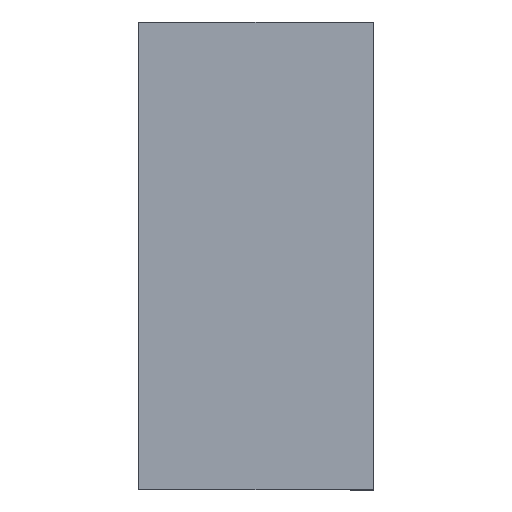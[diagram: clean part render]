
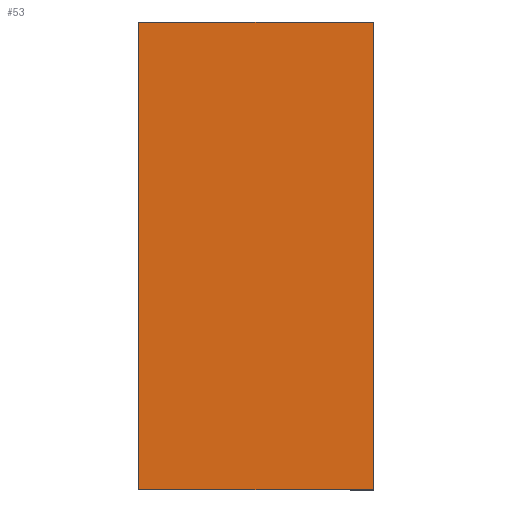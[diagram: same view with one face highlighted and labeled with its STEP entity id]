
A CAD part, top view. The second image highlights one B-rep face of the part: STEP entity #53.
In plain terms, the highlighted planar face has unit normal (0, 0, 1).
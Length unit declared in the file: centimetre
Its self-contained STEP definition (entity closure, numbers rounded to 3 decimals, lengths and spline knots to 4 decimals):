
#53=ADVANCED_FACE('',(#99),#639,.T.);
#99=FACE_OUTER_BOUND('',#145,.T.);
#145=EDGE_LOOP('',(#251,#252,#253,#254));
#251=ORIENTED_EDGE('',*,*,#406,.T.);
#252=ORIENTED_EDGE('',*,*,#407,.T.);
#253=ORIENTED_EDGE('',*,*,#408,.T.);
#254=ORIENTED_EDGE('',*,*,#409,.T.);
#406=EDGE_CURVE('',#585,#586,#502,.T.);
#407=EDGE_CURVE('',#586,#587,#503,.T.);
#408=EDGE_CURVE('',#587,#588,#504,.T.);
#409=EDGE_CURVE('',#588,#585,#505,.T.);
#502=B_SPLINE_CURVE_WITH_KNOTS('',1,(#937,#938),.UNSPECIFIED.,.F.,.F.,(2,
2),(0.,100.5),.UNSPECIFIED.);
#503=B_SPLINE_CURVE_WITH_KNOTS('',1,(#939,#940),.UNSPECIFIED.,.F.,.F.,(2,
2),(0.,50.4),.UNSPECIFIED.);
#504=B_SPLINE_CURVE_WITH_KNOTS('',1,(#941,#942),.UNSPECIFIED.,.F.,.F.,(2,
2),(0.,100.5),.UNSPECIFIED.);
#505=B_SPLINE_CURVE_WITH_KNOTS('',1,(#943,#944),.UNSPECIFIED.,.F.,.F.,(2,
2),(0.,50.4),.UNSPECIFIED.);
#585=VERTEX_POINT('',#913);
#586=VERTEX_POINT('',#914);
#587=VERTEX_POINT('',#915);
#588=VERTEX_POINT('',#916);
#639=PLANE('',#705);
#705=AXIS2_PLACEMENT_3D('',#899,#754,$);
#754=DIRECTION('',(0.,0.,1.));
#899=CARTESIAN_POINT('',(55.452,-10.062,8.));
#913=CARTESIAN_POINT('',(50.4,0.,8.));
#914=CARTESIAN_POINT('',(50.4,100.5,8.));
#915=CARTESIAN_POINT('',(0.,100.5,8.));
#916=CARTESIAN_POINT('',(0.,0.,8.));
#937=CARTESIAN_POINT('',(50.4,0.,8.));
#938=CARTESIAN_POINT('',(50.4,100.5,8.));
#939=CARTESIAN_POINT('',(50.4,100.5,8.));
#940=CARTESIAN_POINT('',(0.,100.5,8.));
#941=CARTESIAN_POINT('',(0.,100.5,8.));
#942=CARTESIAN_POINT('',(0.,0.,8.));
#943=CARTESIAN_POINT('',(0.,0.,8.));
#944=CARTESIAN_POINT('',(50.4,0.,8.));
